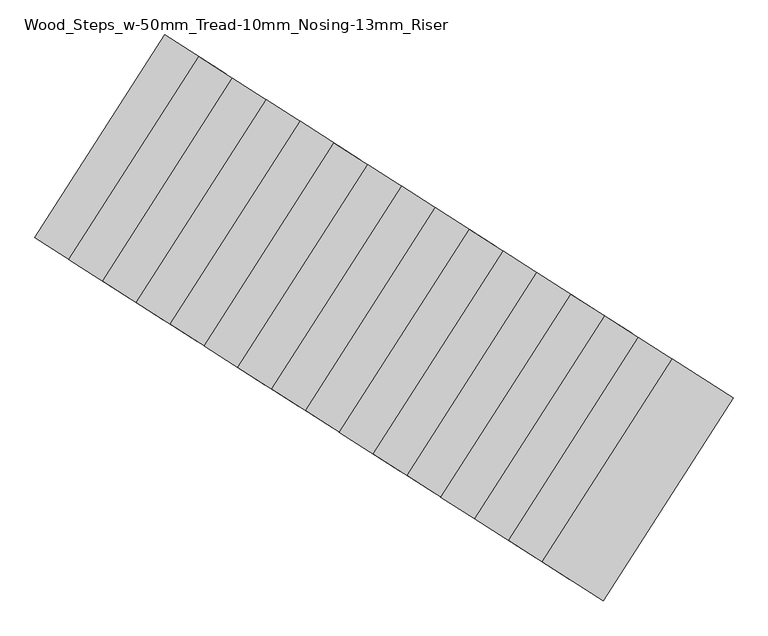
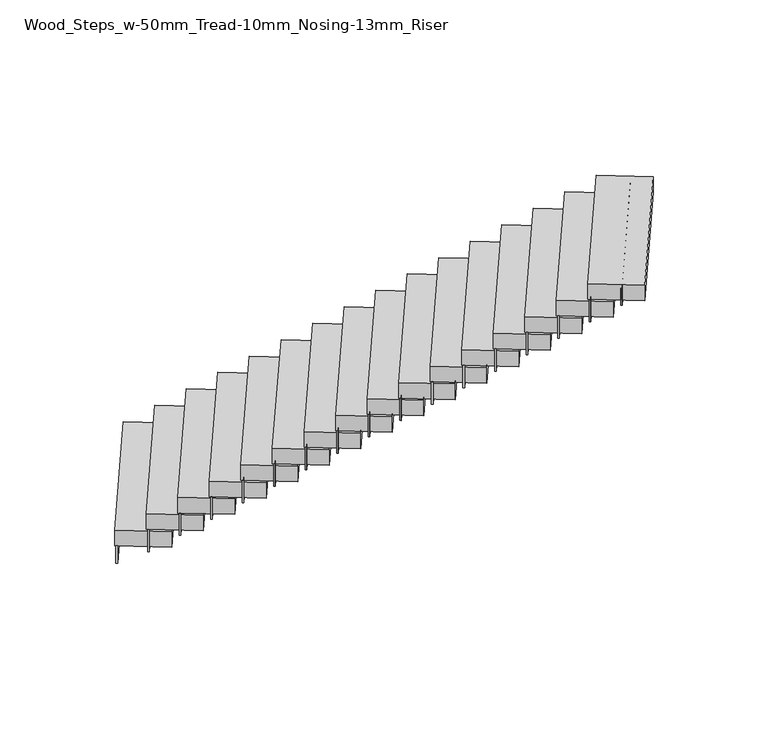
"""IFC4 building model written with IfcOpenShell, lengths in millimetres: stair flight geometry, Wood_Steps_w-50mm_Tread-10mm_Nosing-13mm_Riser."""

from ifc_helpers import new_model, si_unit, frame, origin, place, context, project, spatial, polyline, outline, extrude, source, transform, mapped, element, save


def wood_steps_w_50mm_tread_10mm_nosing_13mm_riser_6bf3e914(model_context):
    return source(origin(), model_context, "Body", "SweptSolid", [
        extrude(outline(polyline([(12445.0047725, 9683.100321), (12434.473446, 9689.8339057), (13242.5036071, 10953.5930832), (13253.0349336, 10946.8594986), (12445.0047725, 9683.100321)])), frame((0.0, 0.0, -3000.0), z_axis=(0.0, 0.0, 1.0), x_axis=(1.0, 0.0, 0.0)), (0.0, 0.0, 1.0), 166.6666667),
        extrude(outline(polyline([(12655.6313021, 9548.4286275), (12645.0999756, 9555.1622122), (13453.1301367, 10818.9213897), (13463.6614632, 10812.1878051), (12655.6313021, 9548.4286275)])), frame((0.0, 0.0, -2883.3333333), z_axis=(0.0, 0.0, 1.0), x_axis=(1.0, 0.0, 0.0)), (0.0, 0.0, 1.0), 216.6666667),
        extrude(outline(polyline([(12866.2578317, 9413.756934), (12855.7265052, 9420.4905187), (13663.7566663, 10684.2496962), (13674.2879928, 10677.5161115), (12866.2578317, 9413.756934)])), frame((0.0, 0.0, -2716.6666667), z_axis=(0.0, 0.0, 1.0), x_axis=(1.0, 0.0, 0.0)), (0.0, 0.0, 1.0), 216.6666667),
        extrude(outline(polyline([(13076.8843613, 9279.0852405), (13066.3530348, 9285.8188252), (13874.3831959, 10549.5780027), (13884.9145224, 10542.844418), (13076.8843613, 9279.0852405)])), frame((0.0, 0.0, -2550.0), z_axis=(0.0, 0.0, 1.0), x_axis=(1.0, 0.0, 0.0)), (0.0, 0.0, 1.0), 216.6666667),
        extrude(outline(polyline([(13287.5108909, 9144.413547), (13276.9795644, 9151.1471317), (14085.0097255, 10414.9063092), (14095.541052, 10408.1727245), (13287.5108909, 9144.413547)])), frame((0.0, 0.0, -2383.3333333), z_axis=(0.0, 0.0, 1.0), x_axis=(1.0, 0.0, 0.0)), (0.0, 0.0, 1.0), 216.6666667),
        extrude(outline(polyline([(13498.1374205, 9009.7418535), (13487.606094, 9016.4754382), (14295.6362551, 10280.2346157), (14306.1675815, 10273.501031), (13498.1374205, 9009.7418535)])), frame((0.0, 0.0, -2216.6666667), z_axis=(0.0, 0.0, 1.0), x_axis=(1.0, 0.0, 0.0)), (0.0, 0.0, 1.0), 216.6666667),
        extrude(outline(polyline([(13708.7639501, 8875.07016), (13698.2326236, 8881.8037446), (14506.2627846, 10145.5629222), (14516.7941111, 10138.8293375), (13708.7639501, 8875.07016)])), frame((0.0, 0.0, -2050.0), z_axis=(0.0, 0.0, 1.0), x_axis=(1.0, 0.0, 0.0)), (0.0, 0.0, 1.0), 216.6666667),
        extrude(outline(polyline([(13919.3904796, 8740.3984665), (13908.8591532, 8747.1320511), (14716.8893142, 10010.8912287), (14727.4206407, 10004.157644), (13919.3904796, 8740.3984665)])), frame((0.0, 0.0, -1883.3333333), z_axis=(0.0, 0.0, 1.0), x_axis=(1.0, 0.0, 0.0)), (0.0, 0.0, 1.0), 216.6666667),
        extrude(outline(polyline([(14130.0170092, 8605.7267729), (14119.4856828, 8612.4603576), (14927.5158438, 9876.2195352), (14938.0471703, 9869.4859505), (14130.0170092, 8605.7267729)])), frame((0.0, 0.0, -1716.6666667), z_axis=(0.0, 0.0, 1.0), x_axis=(1.0, 0.0, 0.0)), (0.0, 0.0, 1.0), 216.6666667),
        extrude(outline(polyline([(14340.6435388, 8471.0550794), (14330.1122123, 8477.7886641), (15138.1423734, 9741.5478416), (15148.6736999, 9734.814257), (14340.6435388, 8471.0550794)])), frame((0.0, 0.0, -1550.0), z_axis=(0.0, 0.0, 1.0), x_axis=(1.0, 0.0, 0.0)), (0.0, 0.0, 1.0), 216.6666667),
        extrude(outline(polyline([(14551.2700684, 8336.3833859), (14540.7387419, 8343.1169706), (15348.768903, 9606.8761481), (15359.3002295, 9600.1425635), (14551.2700684, 8336.3833859)])), frame((0.0, 0.0, -1383.3333333), z_axis=(0.0, 0.0, 1.0), x_axis=(1.0, 0.0, 0.0)), (0.0, 0.0, 1.0), 216.6666667),
        extrude(outline(polyline([(14761.896598, 8201.7116924), (14751.3652715, 8208.4452771), (15559.3954326, 9472.2044546), (15569.9267591, 9465.4708699), (14761.896598, 8201.7116924)])), frame((0.0, 0.0, -1216.6666667), z_axis=(0.0, 0.0, 1.0), x_axis=(1.0, 0.0, 0.0)), (0.0, 0.0, 1.0), 216.6666667),
        extrude(outline(polyline([(14972.5231276, 8067.0399989), (14961.9918011, 8073.7735836), (15770.0219622, 9337.5327611), (15780.5532887, 9330.7991764), (14972.5231276, 8067.0399989)])), frame((0.0, 0.0, -1050.0), z_axis=(0.0, 0.0, 1.0), x_axis=(1.0, 0.0, 0.0)), (0.0, 0.0, 1.0), 216.6666667),
        extrude(outline(polyline([(15183.1496572, 7932.3683054), (15172.6183307, 7939.1018901), (15980.6484918, 9202.8610676), (15991.1798182, 9196.1274829), (15183.1496572, 7932.3683054)])), frame((0.0, 0.0, -883.3333333), z_axis=(0.0, 0.0, 1.0), x_axis=(1.0, 0.0, 0.0)), (0.0, 0.0, 1.0), 216.6666667),
        extrude(outline(polyline([(15393.7761868, 7797.6966119), (15383.2448603, 7804.4301965), (16191.2750214, 9068.1893741), (16201.8063478, 9061.4557894), (15393.7761868, 7797.6966119)])), frame((0.0, 0.0, -716.6666667), z_axis=(0.0, 0.0, 1.0), x_axis=(1.0, 0.0, 0.0)), (0.0, 0.0, 1.0), 216.6666667),
        extrude(outline(polyline([(15815.3665913, 7528.8808329), (15804.6478507, 7535.321302), (16612.5280805, 8798.8459871), (16623.059407, 8792.1124024), (15815.3665913, 7528.8808329)])), frame((0.0, 0.0, -383.3333333), z_axis=(0.0, 0.0, 1.0), x_axis=(1.0, 0.0, 0.0)), (0.0, 0.0, 1.0), 166.6666667),
        extrude(outline(polyline([(15604.4027164, 7663.0249184), (15593.8713899, 7669.758503), (16401.9015509, 8933.5176806), (16412.4328774, 8926.7840959), (15604.4027164, 7663.0249184)])), frame((0.0, 0.0, -550.0), z_axis=(0.0, 0.0, 1.0), x_axis=(1.0, 0.0, 0.0)), (0.0, 0.0, 1.0), 216.6666667),
        extrude(outline(polyline([(12805.1761381, 9452.8117251), (12426.0483849, 9695.2207735), (13234.0785459, 10958.979951), (13613.2062992, 10716.5709027), (12805.1761381, 9452.8117251)])), frame((0.0, 0.0, -2833.3333333), z_axis=(0.0, 0.0, 1.0), x_axis=(1.0, 0.0, 0.0)), (0.0, 0.0, 1.0), 150.0),
        extrude(outline(polyline([(13015.8026677, 9318.1400316), (12636.6749144, 9560.5490799), (13444.7050755, 10824.3082575), (13823.8328288, 10581.8992092), (13015.8026677, 9318.1400316)])), frame((0.0, 0.0, -2666.6666667), z_axis=(0.0, 0.0, 1.0), x_axis=(1.0, 0.0, 0.0)), (0.0, 0.0, 1.0), 150.0),
        extrude(outline(polyline([(13226.4291973, 9183.4683381), (12847.301444, 9425.8773864), (13655.3316051, 10689.636564), (14034.4593584, 10447.2275156), (13226.4291973, 9183.4683381)])), frame((0.0, 0.0, -2500.0), z_axis=(0.0, 0.0, 1.0), x_axis=(1.0, 0.0, 0.0)), (0.0, 0.0, 1.0), 150.0),
        extrude(outline(polyline([(13437.0557269, 9048.7966446), (13057.9279736, 9291.2056929), (13865.9581347, 10554.9648705), (14245.085888, 10312.5558221), (13437.0557269, 9048.7966446)])), frame((0.0, 0.0, -2333.3333333), z_axis=(0.0, 0.0, 1.0), x_axis=(1.0, 0.0, 0.0)), (0.0, 0.0, 1.0), 150.0),
        extrude(outline(polyline([(13647.6822565, 8914.1249511), (13268.5545032, 9156.5339994), (14076.5846643, 10420.2931769), (14455.7124175, 10177.8841286), (13647.6822565, 8914.1249511)])), frame((0.0, 0.0, -2166.6666667), z_axis=(0.0, 0.0, 1.0), x_axis=(1.0, 0.0, 0.0)), (0.0, 0.0, 1.0), 150.0),
        extrude(outline(polyline([(13858.3087861, 8779.4532576), (13479.1810328, 9021.8623059), (14287.2111939, 10285.6214834), (14666.3389471, 10043.2124351), (13858.3087861, 8779.4532576)])), frame((0.0, 0.0, -2000.0), z_axis=(0.0, 0.0, 1.0), x_axis=(1.0, 0.0, 0.0)), (0.0, 0.0, 1.0), 150.0),
        extrude(outline(polyline([(14068.9353157, 8644.7815641), (13689.8075624, 8887.1906124), (14497.8377235, 10150.9497899), (14876.9654767, 9908.5407416), (14068.9353157, 8644.7815641)])), frame((0.0, 0.0, -1833.3333333), z_axis=(0.0, 0.0, 1.0), x_axis=(1.0, 0.0, 0.0)), (0.0, 0.0, 1.0), 150.0),
        extrude(outline(polyline([(14279.5618452, 8510.1098705), (13900.434092, 8752.5189189), (14708.4642531, 10016.2780964), (15087.5920063, 9773.8690481), (14279.5618452, 8510.1098705)])), frame((0.0, 0.0, -1666.6666667), z_axis=(0.0, 0.0, 1.0), x_axis=(1.0, 0.0, 0.0)), (0.0, 0.0, 1.0), 150.0),
        extrude(outline(polyline([(14490.1883748, 8375.438177), (14111.0606216, 8617.8472254), (14919.0907826, 9881.6064029), (15298.2185359, 9639.1973546), (14490.1883748, 8375.438177)])), frame((0.0, 0.0, -1500.0), z_axis=(0.0, 0.0, 1.0), x_axis=(1.0, 0.0, 0.0)), (0.0, 0.0, 1.0), 150.0),
        extrude(outline(polyline([(14700.8149044, 8240.7664835), (14321.6871512, 8483.1755318), (15129.7173122, 9746.9347094), (15508.8450655, 9504.5256611), (14700.8149044, 8240.7664835)])), frame((0.0, 0.0, -1333.3333333), z_axis=(0.0, 0.0, 1.0), x_axis=(1.0, 0.0, 0.0)), (0.0, 0.0, 1.0), 150.0),
        extrude(outline(polyline([(14911.441434, 8106.09479), (14532.3136807, 8348.5038383), (15340.3438418, 9612.2630159), (15719.4715951, 9369.8539675), (14911.441434, 8106.09479)])), frame((0.0, 0.0, -1166.6666667), z_axis=(0.0, 0.0, 1.0), x_axis=(1.0, 0.0, 0.0)), (0.0, 0.0, 1.0), 150.0),
        extrude(outline(polyline([(15122.0679636, 7971.4230965), (14742.9402103, 8213.8321448), (15550.9703714, 9477.5913224), (15930.0981247, 9235.182274), (15122.0679636, 7971.4230965)])), frame((0.0, 0.0, -1000.0), z_axis=(0.0, 0.0, 1.0), x_axis=(1.0, 0.0, 0.0)), (0.0, 0.0, 1.0), 150.0),
        extrude(outline(polyline([(15332.6944932, 7836.751403), (14953.5667399, 8079.1604513), (15761.596901, 9342.9196288), (16140.7246543, 9100.5105805), (15332.6944932, 7836.751403)])), frame((0.0, 0.0, -833.3333333), z_axis=(0.0, 0.0, 1.0), x_axis=(1.0, 0.0, 0.0)), (0.0, 0.0, 1.0), 150.0),
        extrude(outline(polyline([(15543.3210228, 7702.0797095), (15164.1932695, 7944.4887578), (15972.2234306, 9208.2479353), (16351.3511838, 8965.838887), (15543.3210228, 7702.0797095)])), frame((0.0, 0.0, -666.6666667), z_axis=(0.0, 0.0, 1.0), x_axis=(1.0, 0.0, 0.0)), (0.0, 0.0, 1.0), 150.0),
        extrude(outline(polyline([(15753.9475524, 7567.408016), (15374.8197991, 7809.8170643), (16182.8499602, 9073.5762418), (16561.9777134, 8831.1671935), (15753.9475524, 7567.408016)])), frame((0.0, 0.0, -500.0), z_axis=(0.0, 0.0, 1.0), x_axis=(1.0, 0.0, 0.0)), (0.0, 0.0, 1.0), 150.0),
        extrude(outline(polyline([(15964.5740819, 7432.7363225), (15585.4463287, 7675.1453708), (16393.4764898, 8938.9045483), (16772.604243, 8696.4955), (15964.5740819, 7432.7363225)])), frame((0.0, 0.0, -333.3333333), z_axis=(0.0, 0.0, 1.0), x_axis=(1.0, 0.0, 0.0)), (0.0, 0.0, 1.0), 150.0),
    ])


if __name__ == "__main__":
    model = new_model("IFC4")
    model_context = context("Model", 3, world=origin())
    ifc_project = project(units=[si_unit("LENGTHUNIT", "METRE", prefix="MILLI")], contexts=[model_context])
    site = spatial("IfcSite", under=ifc_project)
    building = spatial("IfcBuilding", under=site)
    placement = place(None, origin())
    wood_steps_w_50mm_tread_10mm_nosing_13mm_riser_shape = wood_steps_w_50mm_tread_10mm_nosing_13mm_riser_6bf3e914(model_context)
    element("IfcStairFlight", 1, ObjectType="Wood_Steps_w-50mm_Tread-10mm_Nosing-13mm_Riser", at=placement, inside=building, context=model_context, shape_type="MappedRepresentation", body=[
        mapped(wood_steps_w_50mm_tread_10mm_nosing_13mm_riser_shape, transform((0.0, 0.0, 0.0), x_axis=(1.0, 0.0, 0.0), y_axis=(0.0, 1.0, 0.0), z_axis=(0.0, 0.0, 1.0))),
    ])
    save(model, "model.ifc")
